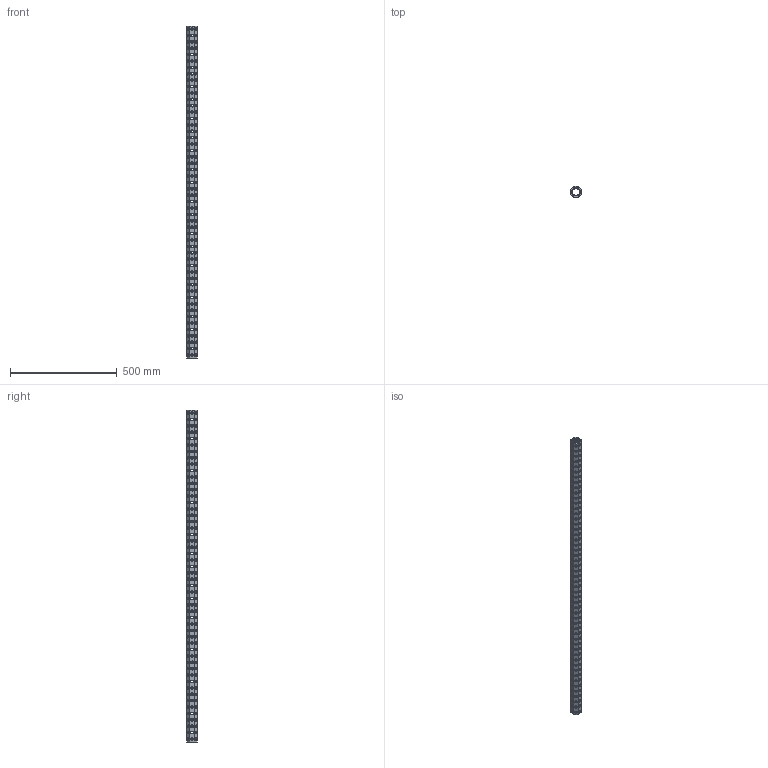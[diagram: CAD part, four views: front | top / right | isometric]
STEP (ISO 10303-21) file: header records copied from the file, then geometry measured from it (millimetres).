
FILE_DESCRIPTION(('CATIA V5 STEP Exchange'),'2;1');
FILE_NAME('U:\Room\唐宝山\EGT002\46-01-010281-01-EGT002-1558.stp','2021-08-24T01:29:43+00:00',('none'),('none'),'CATIA Version 5 Release 21 GA (IN-10)','CATIA V5 STEP AP203','none');
FILE_SCHEMA(('CONFIG_CONTROL_DESIGN'));
Products named in the file (1): 46-01-010281-01-EGT002-1558
Bounding box: 50 x 50 x 1558 mm (x, y, z)
Volume: 1110006.2 mm3; surface area: 535546.4 mm2
Topology: 1 solids, 1 shells, 2164 faces, 5966 edges, 3700 vertices
Faces by surface type: cone 1248, cylinder 890, plane 26
Entity records: 88207 total; most frequent: CARTESIAN_POINT 35750, ORIENTED_EDGE 11932, DIRECTION 8446, EDGE_CURVE 5966, AXIS2_PLACEMENT_3D 3969, VERTEX_POINT 3700, EDGE_LOOP 2894, VECTOR 2314
